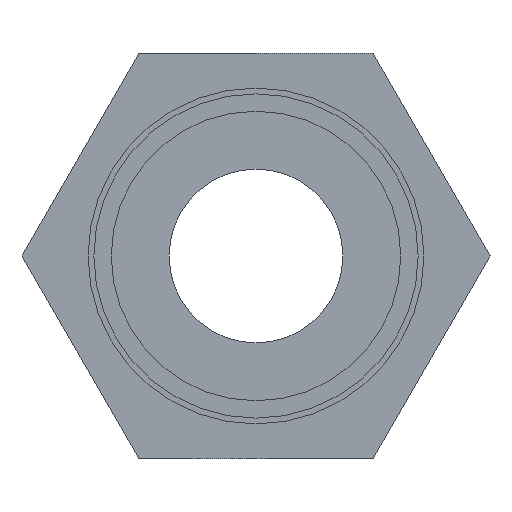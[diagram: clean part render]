
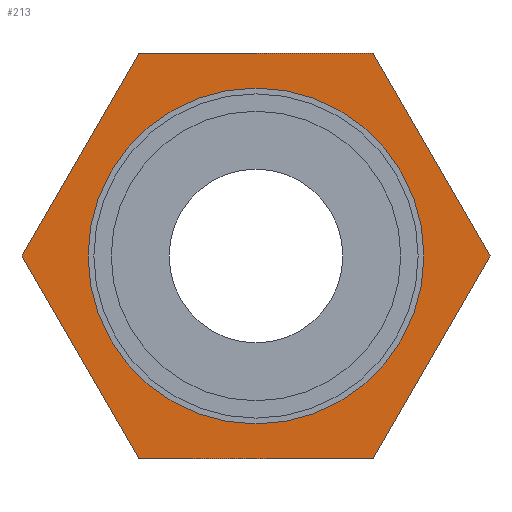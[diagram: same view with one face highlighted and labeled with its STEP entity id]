
A CAD part, left-side view. The second image highlights one B-rep face of the part: STEP entity #213.
In plain terms, the highlighted planar face has unit normal (-1, 0, 0).
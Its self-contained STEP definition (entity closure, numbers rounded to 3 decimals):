
#5 = LINE ( 'NONE', #647, #209 ) ;
#18 = CARTESIAN_POINT ( 'NONE',  ( 109., 40.415, 0. ) ) ;
#28 = LINE ( 'NONE', #655, #615 ) ;
#57 = CARTESIAN_POINT ( 'NONE',  ( 109., 20.207, -35. ) ) ;
#109 = AXIS2_PLACEMENT_3D ( 'NONE', #357, #352, #347 ) ;
#120 = DIRECTION ( 'NONE',  ( 0., 1., 0. ) ) ;
#150 = CARTESIAN_POINT ( 'NONE',  ( 109., -40.415, 0. ) ) ;
#157 = EDGE_CURVE ( 'NONE', #674, #772, #242, .T. ) ;
#162 = AXIS2_PLACEMENT_3D ( 'NONE', #740, #627, #602 ) ;
#209 = VECTOR ( 'NONE', #120, 1000. ) ;
#213 = ADVANCED_FACE ( 'NONE', ( #811, #780 ), #776, .F. ) ;
#226 = VECTOR ( 'NONE', #729, 1000. ) ;
#242 = CIRCLE ( 'NONE', #476, 28. ) ;
#243 = VERTEX_POINT ( 'NONE', #18 ) ;
#263 = VECTOR ( 'NONE', #832, 1000. ) ;
#275 = VERTEX_POINT ( 'NONE', #401 ) ;
#316 = CARTESIAN_POINT ( 'NONE',  ( 109., 20.207, 35. ) ) ;
#347 = DIRECTION ( 'NONE',  ( 0., 0., 1. ) ) ;
#351 = EDGE_CURVE ( 'NONE', #772, #674, #667, .T. ) ;
#352 = DIRECTION ( 'NONE',  ( -1., 0., 0. ) ) ;
#357 = CARTESIAN_POINT ( 'NONE',  ( 109., 0., 0. ) ) ;
#396 = EDGE_LOOP ( 'NONE', ( #805, #836 ) ) ;
#401 = CARTESIAN_POINT ( 'NONE',  ( 109., -40.415, 0. ) ) ;
#402 = EDGE_CURVE ( 'NONE', #791, #443, #621, .T. ) ;
#409 = EDGE_CURVE ( 'NONE', #725, #243, #28, .T. ) ;
#443 = VERTEX_POINT ( 'NONE', #501 ) ;
#447 = EDGE_CURVE ( 'NONE', #885, #725, #5, .T. ) ;
#448 = CARTESIAN_POINT ( 'NONE',  ( 109., -20.207, 35. ) ) ;
#461 = LINE ( 'NONE', #150, #263 ) ;
#462 = CARTESIAN_POINT ( 'NONE',  ( 109., 40.415, 0. ) ) ;
#476 = AXIS2_PLACEMENT_3D ( 'NONE', #940, #934, #930 ) ;
#480 = LINE ( 'NONE', #448, #863 ) ;
#496 = DIRECTION ( 'NONE',  ( 0., 0.5, 0.866 ) ) ;
#501 = CARTESIAN_POINT ( 'NONE',  ( 109., -20.207, 35. ) ) ;
#527 = CARTESIAN_POINT ( 'NONE',  ( 109., 0., 28. ) ) ;
#555 = EDGE_LOOP ( 'NONE', ( #953, #698, #985, #679, #777, #857 ) ) ;
#576 = CARTESIAN_POINT ( 'NONE',  ( 109., -20.207, -35. ) ) ;
#580 = DIRECTION ( 'NONE',  ( 0., -0.5, -0.866 ) ) ;
#602 = DIRECTION ( 'NONE',  ( 0., 0., -1. ) ) ;
#615 = VECTOR ( 'NONE', #496, 1000. ) ;
#621 = LINE ( 'NONE', #316, #226 ) ;
#627 = DIRECTION ( 'NONE',  ( 1., 0., 0. ) ) ;
#647 = CARTESIAN_POINT ( 'NONE',  ( 109., -20.207, -35. ) ) ;
#655 = CARTESIAN_POINT ( 'NONE',  ( 109., 20.207, -35. ) ) ;
#667 = CIRCLE ( 'NONE', #109, 28. ) ;
#674 = VERTEX_POINT ( 'NONE', #901 ) ;
#679 = ORIENTED_EDGE ( 'NONE', *, *, #860, .F. ) ;
#698 = ORIENTED_EDGE ( 'NONE', *, *, #447, .F. ) ;
#725 = VERTEX_POINT ( 'NONE', #57 ) ;
#729 = DIRECTION ( 'NONE',  ( 0., -1., 0. ) ) ;
#740 = CARTESIAN_POINT ( 'NONE',  ( 109., 0., 0. ) ) ;
#746 = VECTOR ( 'NONE', #818, 1000. ) ;
#772 = VERTEX_POINT ( 'NONE', #527 ) ;
#776 = PLANE ( 'NONE',  #162 ) ;
#777 = ORIENTED_EDGE ( 'NONE', *, *, #402, .F. ) ;
#780 = FACE_OUTER_BOUND ( 'NONE', #555, .T. ) ;
#791 = VERTEX_POINT ( 'NONE', #908 ) ;
#805 = ORIENTED_EDGE ( 'NONE', *, *, #351, .F. ) ;
#811 = FACE_BOUND ( 'NONE', #396, .T. ) ;
#818 = DIRECTION ( 'NONE',  ( 0., -0.5, 0.866 ) ) ;
#832 = DIRECTION ( 'NONE',  ( 0., 0.5, -0.866 ) ) ;
#836 = ORIENTED_EDGE ( 'NONE', *, *, #157, .F. ) ;
#857 = ORIENTED_EDGE ( 'NONE', *, *, #951, .F. ) ;
#860 = EDGE_CURVE ( 'NONE', #443, #275, #480, .T. ) ;
#863 = VECTOR ( 'NONE', #580, 1000. ) ;
#873 = EDGE_CURVE ( 'NONE', #275, #885, #461, .T. ) ;
#885 = VERTEX_POINT ( 'NONE', #576 ) ;
#901 = CARTESIAN_POINT ( 'NONE',  ( 109., 0., -28. ) ) ;
#908 = CARTESIAN_POINT ( 'NONE',  ( 109., 20.207, 35. ) ) ;
#930 = DIRECTION ( 'NONE',  ( 0., 0., 1. ) ) ;
#934 = DIRECTION ( 'NONE',  ( -1., 0., 0. ) ) ;
#939 = LINE ( 'NONE', #462, #746 ) ;
#940 = CARTESIAN_POINT ( 'NONE',  ( 109., 0., 0. ) ) ;
#951 = EDGE_CURVE ( 'NONE', #243, #791, #939, .T. ) ;
#953 = ORIENTED_EDGE ( 'NONE', *, *, #409, .F. ) ;
#985 = ORIENTED_EDGE ( 'NONE', *, *, #873, .F. ) ;
